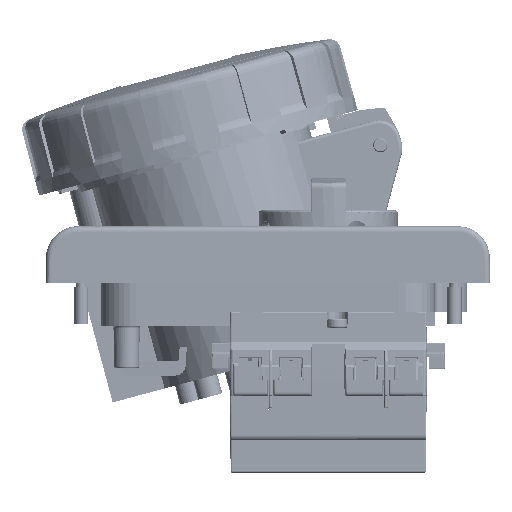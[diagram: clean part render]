
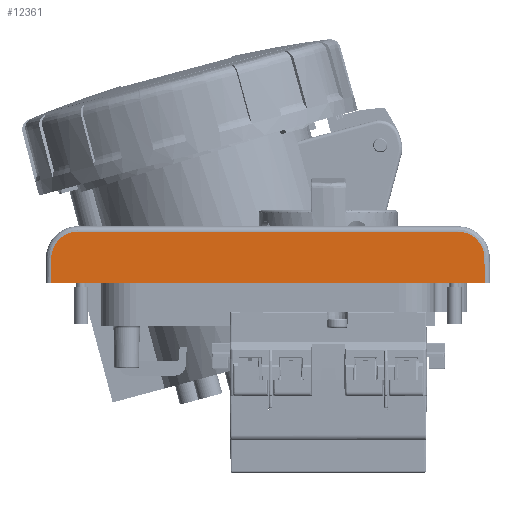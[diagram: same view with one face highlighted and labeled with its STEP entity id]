
A CAD part, left-side view. The second image highlights one B-rep face of the part: STEP entity #12361.
In plain terms, the highlighted planar face has unit normal (-1, 0, 0.009).
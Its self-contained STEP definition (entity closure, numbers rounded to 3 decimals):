
#4054=ELLIPSE('',#126817,7.5,7.5);
#4055=ELLIPSE('',#126818,7.5,7.5);
#7829=PLANE('',#126819);
#12361=ADVANCED_FACE('',(#21218),#7829,.T.);
#21218=FACE_OUTER_BOUND('',#28003,.T.);
#28003=EDGE_LOOP('',(#64540,#64541,#64542,#64543,#64544,#64545));
#36334=LINE('',#195697,#47083);
#36356=LINE('',#195891,#47105);
#36358=LINE('',#195894,#47107);
#36364=LINE('',#195914,#47113);
#47083=VECTOR('',#143454,1.);
#47105=VECTOR('',#143516,1.);
#47107=VECTOR('',#143520,1.);
#47113=VECTOR('',#143540,1.);
#64540=ORIENTED_EDGE('',*,*,#107013,.T.);
#64541=ORIENTED_EDGE('',*,*,#107061,.T.);
#64542=ORIENTED_EDGE('',*,*,#107072,.F.);
#64543=ORIENTED_EDGE('',*,*,#107073,.F.);
#64544=ORIENTED_EDGE('',*,*,#107074,.T.);
#64545=ORIENTED_EDGE('',*,*,#107063,.F.);
#94004=VERTEX_POINT('',#195696);
#94005=VERTEX_POINT('',#195698);
#94051=VERTEX_POINT('',#195889);
#94053=VERTEX_POINT('',#195895);
#94059=VERTEX_POINT('',#195913);
#94060=VERTEX_POINT('',#195915);
#107013=EDGE_CURVE('',#94005,#94004,#36334,.T.);
#107061=EDGE_CURVE('',#94004,#94051,#36356,.T.);
#107063=EDGE_CURVE('',#94005,#94053,#36358,.T.);
#107072=EDGE_CURVE('',#94059,#94051,#4054,.T.);
#107073=EDGE_CURVE('',#94060,#94059,#36364,.T.);
#107074=EDGE_CURVE('',#94060,#94053,#4055,.T.);
#126817=AXIS2_PLACEMENT_3D('',#195912,#143538,#143539);
#126818=AXIS2_PLACEMENT_3D('',#195916,#143541,#143542);
#126819=AXIS2_PLACEMENT_3D('',#195917,#143543,#143544);
#143454=DIRECTION('',(0.,-1.,0.));
#143516=DIRECTION('',(0.009,0.009,1.));
#143520=DIRECTION('',(0.009,-0.009,1.));
#143538=DIRECTION('',(1.,0.,-0.009));
#143539=DIRECTION('',(-0.009,0.,-1.));
#143540=DIRECTION('',(0.,-1.,0.));
#143541=DIRECTION('',(-1.,0.,0.009));
#143542=DIRECTION('',(0.009,0.,1.));
#143543=DIRECTION('',(-1.,0.,0.009));
#143544=DIRECTION('',(0.,-1.,0.));
#195696=CARTESIAN_POINT('',(-68.,-61.,0.));
#195697=CARTESIAN_POINT('',(-68.,61.,0.));
#195698=CARTESIAN_POINT('',(-68.,61.,0.));
#195889=CARTESIAN_POINT('',(-67.938,-60.938,7.079));
#195891=CARTESIAN_POINT('',(-68.002,-61.002,-0.236));
#195894=CARTESIAN_POINT('',(-68.002,61.002,-0.236));
#195895=CARTESIAN_POINT('',(-67.938,60.938,7.079));
#195912=CARTESIAN_POINT('',(-67.939,-53.439,7.013));
#195913=CARTESIAN_POINT('',(-67.873,-53.439,14.513));
#195914=CARTESIAN_POINT('',(-67.873,53.439,14.513));
#195915=CARTESIAN_POINT('',(-67.873,53.439,14.513));
#195916=CARTESIAN_POINT('',(-67.939,53.439,7.013));
#195917=CARTESIAN_POINT('',(-68.,61.,0.));
